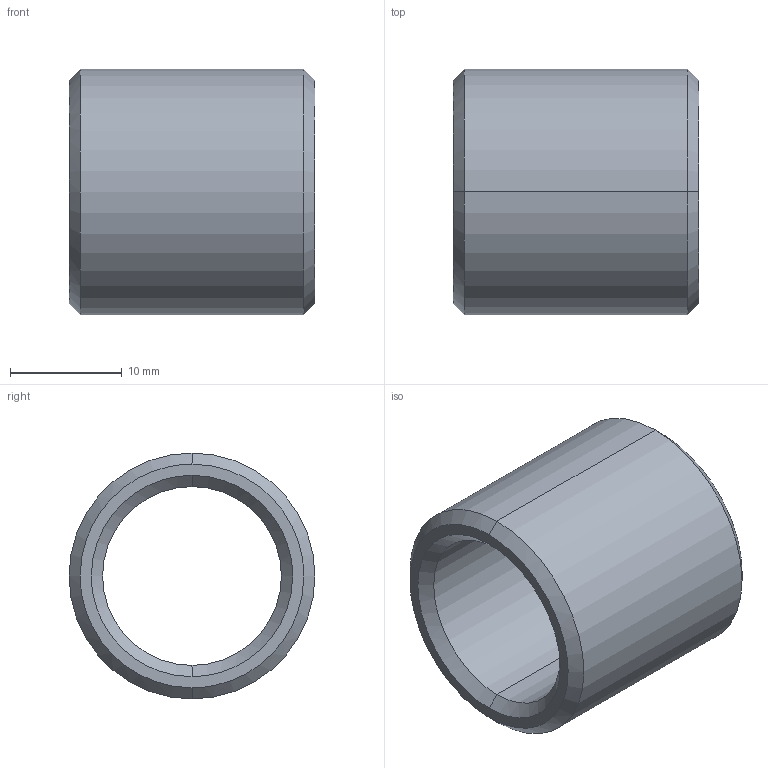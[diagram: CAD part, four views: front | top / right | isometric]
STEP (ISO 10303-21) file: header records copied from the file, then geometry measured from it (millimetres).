
FILE_DESCRIPTION(('CATIA V5 STEP Exchange'),'2;1');
FILE_NAME('C:\Users\Utente\Desktop\IO LAVORO\3D X SITO CF\X SITO\PLASTICA\352\352-16X22.stp','2021-04-10T09:09:28+00:00',('none'),('none'),'CATIA Version 5 Release 20 GA (IN-10)','CATIA V5 STEP AP203','none');
FILE_SCHEMA(('CONFIG_CONTROL_DESIGN'));
Length unit declared in the file: millimetre
Products named in the file (1): 352-16X22
Bounding box: 22 x 22 x 22 mm (x, y, z)
Volume: 3835.3 mm3; surface area: 2851.7 mm2
Topology: 1 solids, 1 shells, 14 faces, 44 edges, 32 vertices
Faces by surface type: cone 6, cylinder 4, plane 2, torus 2
Entity records: 634 total; most frequent: CARTESIAN_POINT 203, ORIENTED_EDGE 88, DIRECTION 64, EDGE_CURVE 44, AXIS2_PLACEMENT_3D 41, VERTEX_POINT 32, CIRCLE 26, EDGE_LOOP 16
